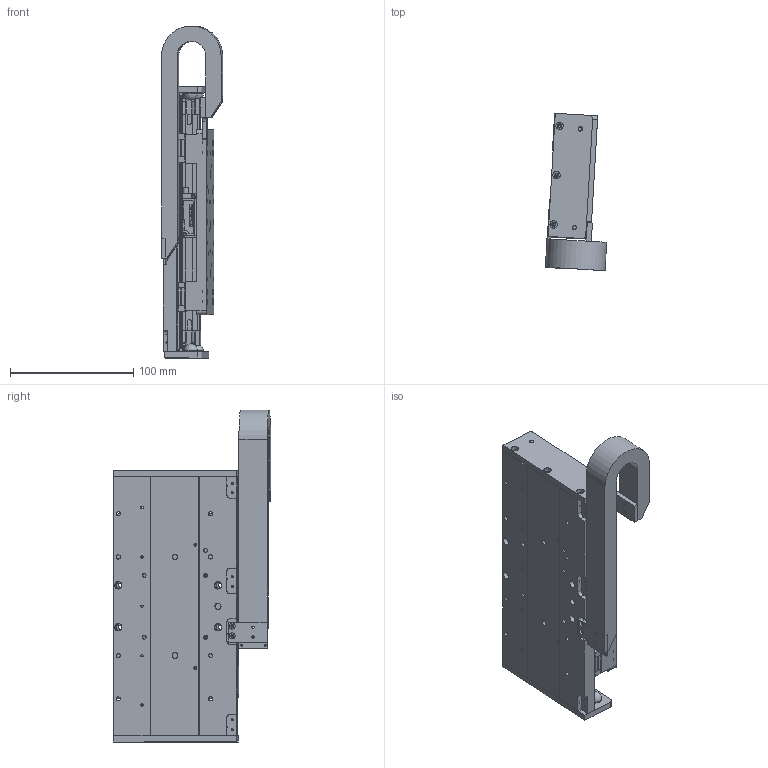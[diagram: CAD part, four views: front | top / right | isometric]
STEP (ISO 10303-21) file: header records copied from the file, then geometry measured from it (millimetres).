
FILE_DESCRIPTION(/* description */ (''),/* implementation_level */ '2;1');
FILE_NAME(/* name */ 'I:\FY15 Projects\MSR\MSR100\Web Step Models\mSR100L-050XLDXXXXXXCM13.stp',/* time_stamp */ '2015-02-18T13:23:31-05:00',/* author */ ('BF20108'),/* organization */ (''),/* preprocessor_version */ 'ST-DEVELOPER v15.2',/* originating_system */ 'Autodesk Inventor 2014',/* authorisation */ '');
FILE_SCHEMA (('AUTOMOTIVE_DESIGN { 1 0 10303 214 3 1 1 }'));
Products named in the file (18): 102-5710-03; 003-3562-35; 102-5702-02; ml18-120m-n; ml18-80m-n; 102-5703-01; 102-5705-01; 002-3740-03; 003-3561; 003-5000; 102-5708; ML18-5E; 002-3740-long-carriage-assy; mx100-mcb; mx100-scb; e045-16-018-carrier-08; 002-3740-cbl-carr-lc-01; 002-3740
Bounding box: 49.76 x 127.63 x 269.13 mm (x, y, z)
Volume: 497426.5 mm3; surface area: 232240.7 mm2
Topology: 23 solids, 24 shells, 2042 faces, 5527 edges, 3590 vertices
Faces by surface type: plane 1140, cylinder 687, cone 123, torus 80, bspline 8, sphere 4
Full cylindrical faces by diameter (mm): 0.5 x8, 1 x4, 1.567 x57, 1.588 x2, 2.007 x18, 2.013 x9, 2.135 x4, 2.4 x28, 2.459 x20, 2.5 x20, 2.642 x4, 2.75 x1, 3 x21, 3.242 x10, 3.4 x20, 3.505 x4, 4 x4, 4.17 x2, 4.2 x29, 4.5 x18, 5 x9, 5.08 x2, 6 x24, 11.176 x4
Entity records: 53150 total; most frequent: CARTESIAN_POINT 10103, DIRECTION 8896, ORIENTED_EDGE 8380, EDGE_CURVE 4180, AXIS2_PLACEMENT_3D 3082, VERTEX_POINT 2888, LINE 2732, VECTOR 2732
